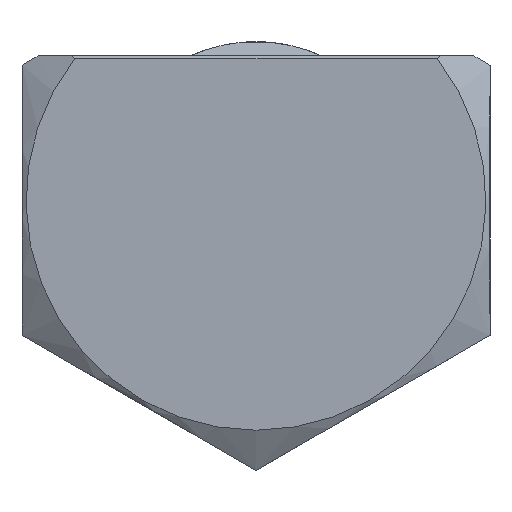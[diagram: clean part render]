
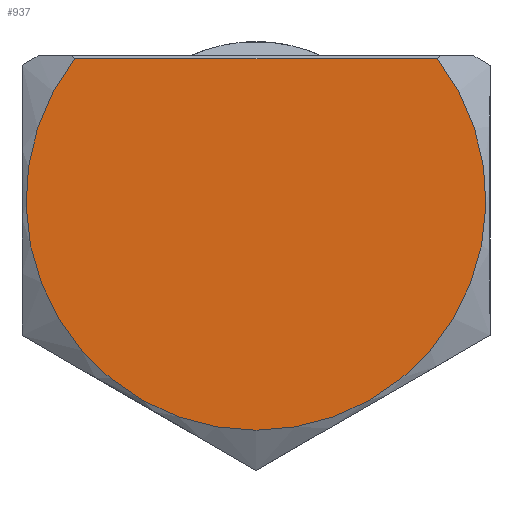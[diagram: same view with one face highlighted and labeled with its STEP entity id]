
A CAD part, front view. The second image highlights one B-rep face of the part: STEP entity #937.
In plain terms, the highlighted planar face has unit normal (0, -1, 0).
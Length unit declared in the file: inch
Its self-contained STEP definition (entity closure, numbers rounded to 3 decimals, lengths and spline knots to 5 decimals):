
#90=PLANE('',#1047);
#116=FACE_OUTER_BOUND('',#174,.T.);
#174=EDGE_LOOP('',(#677,#678));
#241=LINE('',#1560,#281);
#281=VECTOR('',#1208,0.3937);
#321=CIRCLE('',#1041,0.86);
#410=VERTEX_POINT('',#1555);
#411=VERTEX_POINT('',#1559);
#513=EDGE_CURVE('',#410,#411,#241,.T.);
#515=EDGE_CURVE('',#411,#410,#321,.T.);
#677=ORIENTED_EDGE('',*,*,#513,.F.);
#678=ORIENTED_EDGE('',*,*,#515,.F.);
#937=ADVANCED_FACE('',(#116),#90,.T.);
#1041=AXIS2_PLACEMENT_3D('',#1565,#1211,#1212);
#1047=AXIS2_PLACEMENT_3D('',#1599,#1223,#1224);
#1208=DIRECTION('',(1.,0.,0.));
#1211=DIRECTION('center_axis',(0.,1.,0.));
#1212=DIRECTION('ref_axis',(0.,0.,1.));
#1223=DIRECTION('center_axis',(0.,-1.,0.));
#1224=DIRECTION('ref_axis',(0.,0.,-1.));
#1555=CARTESIAN_POINT('',(-0.67727,0.,0.53));
#1559=CARTESIAN_POINT('',(0.67727,0.,0.53));
#1560=CARTESIAN_POINT('',(0.40735,0.,0.53));
#1565=CARTESIAN_POINT('Origin',(0.,0.,0.));
#1599=CARTESIAN_POINT('Origin',(0.,0.,0.));
